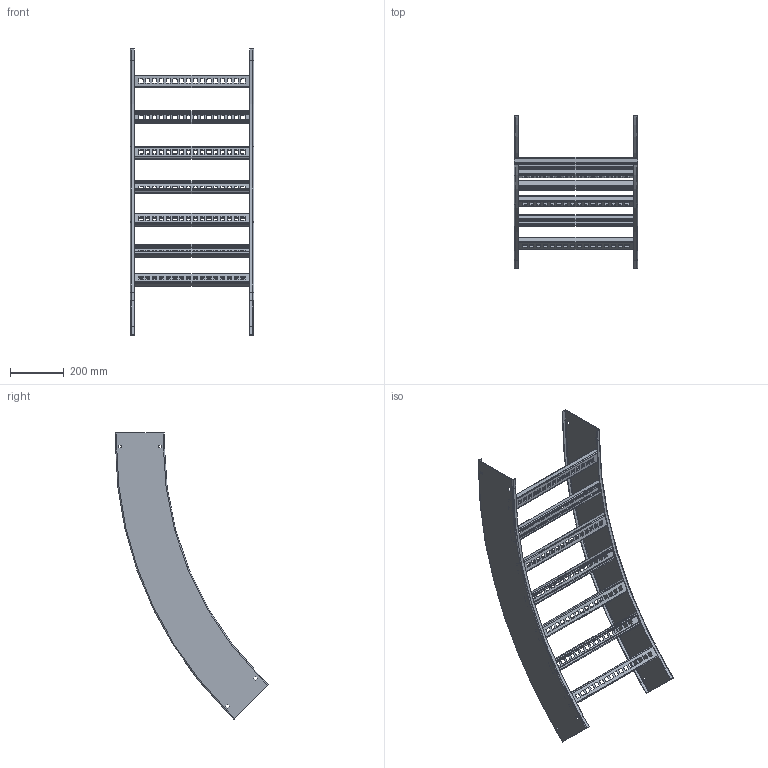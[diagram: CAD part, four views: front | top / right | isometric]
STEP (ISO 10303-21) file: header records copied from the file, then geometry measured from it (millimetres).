
FILE_DESCRIPTION((''),'2;1');
FILE_NAME('AUF718VVO4548_ASM','2010-02-02T',('erouzier'),(''),'PRO/ENGINEER BY PARAMETRIC TECHNOLOGY CORPORATION, 2008510','PRO/ENGINEER BY PARAMETRIC TECHNOLOGY CORPORATION, 2008510','');
FILE_SCHEMA(('CONFIG_CONTROL_DESIGN'));
Length unit declared in the file: inch
Products named in the file (3): CDS001419_7_45_48; CDS002159L18-P; AUF718VVO4548_ASM
Assembly tree (9 placements, depth 2):
  AUF718VVO4548_ASM
    CDS001419_7_45_48  x2
    CDS002159L18-P  x7
Bounding box: 461.31 x 570.95 x 1066.98 mm (x, y, z)
Volume: 1365278.3 mm3; surface area: 1646414.9 mm2
Topology: 9 solids, 9 shells, 1222 faces, 3548 edges, 2344 vertices
Faces by surface type: plane 665, cylinder 549, torus 8
Entity records: 7160 total; most frequent: DIRECTION 1238, CARTESIAN_POINT 1224, ORIENTED_EDGE 1208, EDGE_CURVE 604, VECTOR 426, LINE 426, AXIS2_PLACEMENT_3D 406, VERTEX_POINT 392
